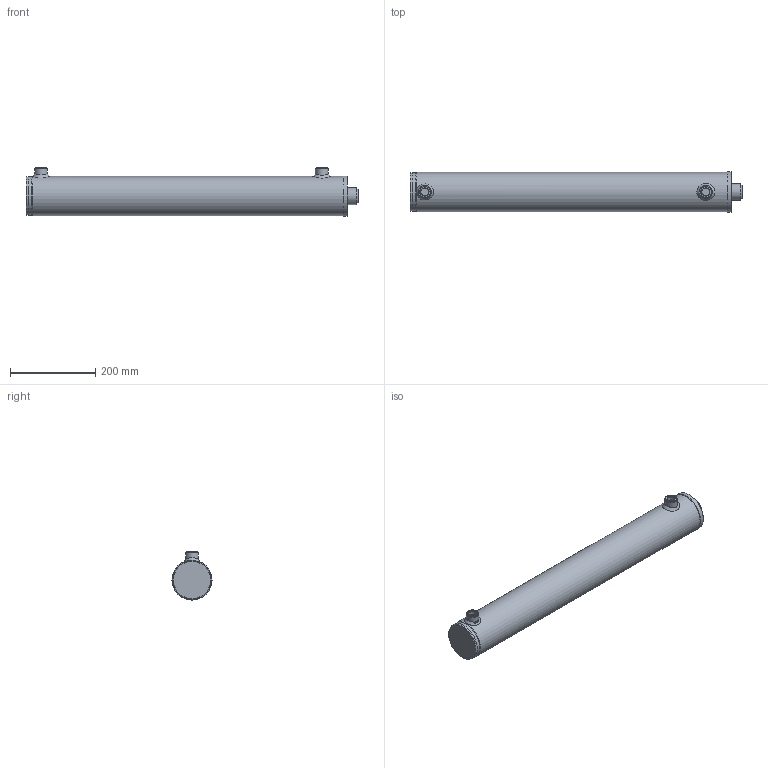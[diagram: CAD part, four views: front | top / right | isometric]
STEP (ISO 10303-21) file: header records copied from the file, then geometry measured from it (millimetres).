
FILE_DESCRIPTION( ( 'Unknown' ), '1' );
FILE_NAME( 'E:/LIBRERIA_3d/CILINDRI/HM0/HM05400600.stp', 'Unknown', ( 'Unknown' ), ( 'Unknown' ), 'PSStep 17.0.49', 'Unknown', ' ' );
FILE_SCHEMA( ( 'AUTOMOTIVE_DESIGN { 1 0 10303 214 1 1 1 1 }' ) );
Length unit declared in the file: millimetre
Products named in the file (18): CT00080027; CG09508040; STL5600600-oa4; Saldatura d'angolo 1-oa2; CBS0800000; FTM5600600-oa3; Assem1; Saldatura con preparazione 1-oa0; Saldatura d'angolo 1-oa1; CF00080090; CDA0002720; APG0800000; SBL4050600
Assembly tree (15 placements, depth 3):
  Saldatura d'angolo 1-oa2
  Saldatura d'angolo 1-oa2
  Assem1
    Saldatura con preparazione 1-oa0
    Saldatura con preparazione 1-oa0
    CF00080090
    CBS0800000
    CDA0002720
    APG0800000  x2
    SBL4050600
    CG09508040
      CG09508040
    CT00080027
      CT00080027
    STL5600600-oa4
      CBS0800000
      FTM5600600-oa3
  Saldatura d'angolo 1-oa1
  Saldatura d'angolo 1-oa1
Bounding box: 780 x 94 x 113 mm (x, y, z)
Volume: 2612133.7 mm3; surface area: 615716.4 mm2
Topology: 16 solids, 16 shells, 196 faces, 394 edges, 245 vertices
Faces by surface type: plane 60, cylinder 56, torus 36, cone 32, bspline 12
Full cylindrical faces by diameter (mm): 4.25 x1, 8 x2, 12 x1, 18.631 x2, 19.5 x2, 20.95 x2, 26 x2, 26.4 x1, 27 x5, 30 x2, 33.2 x1, 40 x5, 41 x1, 43 x3, 48.6 x1, 50 x1, 60 x1, 74.16 x2, 75 x1, 78.34 x2, 79.9 x1, 80 x1, 80.3 x1, 80.5 x1, 80.6 x1, 81 x1, 82 x3, 82.835 x1, 85 x1, 90 x3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
Entity records: 9223 total; most frequent: CARTESIAN_POINT 4377, DIRECTION 730, ORIENTED_EDGE 416, AXIS2_PLACEMENT_3D 352, EDGE_LOOP 347, FACE_OUTER_BOUND 280, EDGE_CURVE 208, VERTEX_POINT 194
